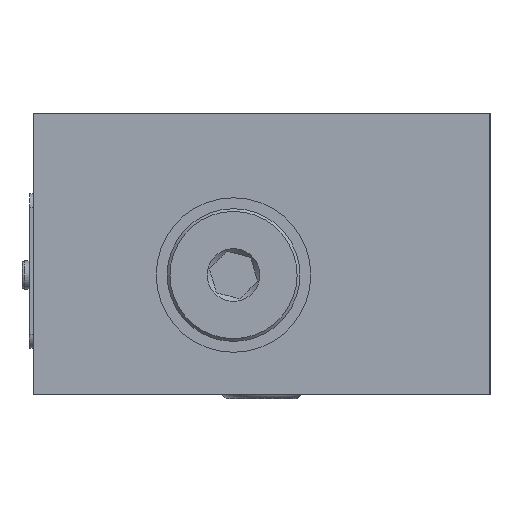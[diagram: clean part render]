
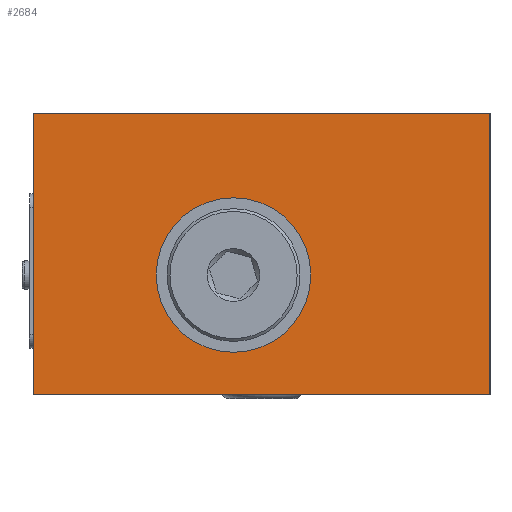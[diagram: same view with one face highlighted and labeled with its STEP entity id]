
A CAD part, left-side view. The second image highlights one B-rep face of the part: STEP entity #2684.
In plain terms, the highlighted planar face has unit normal (-1, 0, 0).
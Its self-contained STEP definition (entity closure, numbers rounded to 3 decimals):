
#89=PLANE('',#3491);
#288=LINE('',#4920,#401);
#289=LINE('',#4924,#402);
#290=LINE('',#4926,#403);
#291=LINE('',#4928,#404);
#401=VECTOR('',#3903,1.);
#402=VECTOR('',#3908,1.);
#403=VECTOR('',#3909,1.);
#404=VECTOR('',#3910,1.);
#722=EDGE_LOOP('',(#1075));
#723=EDGE_LOOP('',(#1076,#1077,#1078,#1079));
#1075=ORIENTED_EDGE('',*,*,#1891,.T.);
#1076=ORIENTED_EDGE('',*,*,#1892,.F.);
#1077=ORIENTED_EDGE('',*,*,#1890,.F.);
#1078=ORIENTED_EDGE('',*,*,#1893,.T.);
#1079=ORIENTED_EDGE('',*,*,#1894,.T.);
#1890=EDGE_CURVE('',#3181,#3179,#288,.T.);
#1891=EDGE_CURVE('',#3182,#3182,#2293,.T.);
#1892=EDGE_CURVE('',#3179,#3183,#289,.T.);
#1893=EDGE_CURVE('',#3181,#3184,#290,.T.);
#1894=EDGE_CURVE('',#3184,#3183,#291,.T.);
#2293=CIRCLE('',#3490,11.);
#2684=ADVANCED_FACE('',(#2930,#2931),#89,.T.);
#2930=FACE_BOUND('',#722,.T.);
#2931=FACE_BOUND('',#723,.T.);
#3179=VERTEX_POINT('',#4915);
#3181=VERTEX_POINT('',#4919);
#3182=VERTEX_POINT('',#4923);
#3183=VERTEX_POINT('',#4925);
#3184=VERTEX_POINT('',#4927);
#3490=AXIS2_PLACEMENT_3D('',#4922,#3906,#3907);
#3491=AXIS2_PLACEMENT_3D('',#4929,#3911,#3912);
#3903=DIRECTION('',(0.,0.,-1.));
#3906=DIRECTION('',(1.,0.,0.));
#3907=DIRECTION('',(0.,0.,-1.));
#3908=DIRECTION('',(0.,1.,0.));
#3909=DIRECTION('',(0.,1.,0.));
#3910=DIRECTION('',(0.,0.,-1.));
#3911=DIRECTION('',(-1.,0.,0.));
#3912=DIRECTION('',(0.,0.,1.));
#4915=CARTESIAN_POINT('',(75.834,-52.086,42.439));
#4919=CARTESIAN_POINT('',(75.834,-52.086,82.439));
#4920=CARTESIAN_POINT('',(75.834,-52.086,82.439));
#4922=CARTESIAN_POINT('',(75.834,-15.586,59.439));
#4923=CARTESIAN_POINT('',(75.834,-15.586,48.439));
#4924=CARTESIAN_POINT('',(75.834,-52.086,42.439));
#4925=CARTESIAN_POINT('',(75.834,12.914,42.439));
#4926=CARTESIAN_POINT('',(75.834,-52.086,82.439));
#4927=CARTESIAN_POINT('',(75.834,12.914,82.439));
#4928=CARTESIAN_POINT('',(75.834,12.914,82.439));
#4929=CARTESIAN_POINT('',(75.834,-52.086,82.439));
